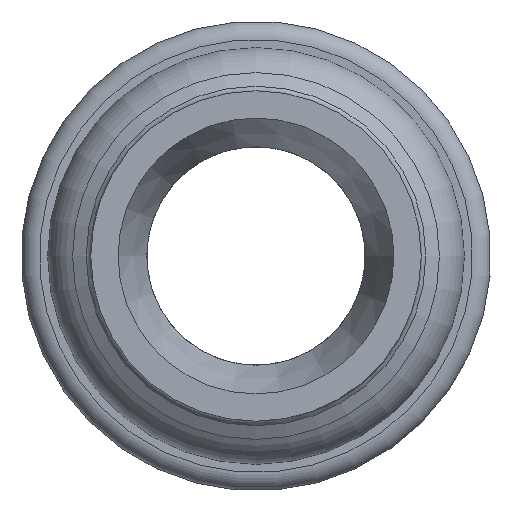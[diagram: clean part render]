
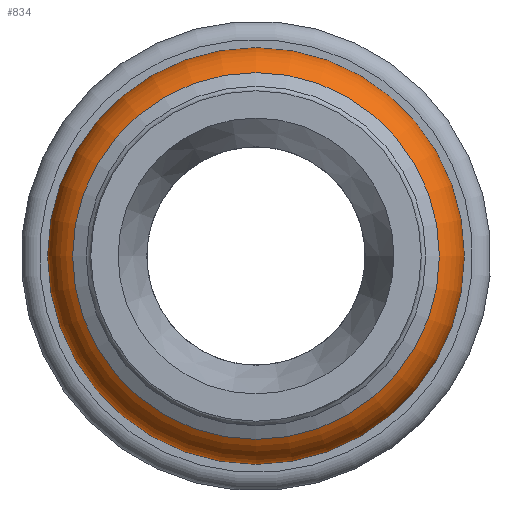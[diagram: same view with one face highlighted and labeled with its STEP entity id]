
A CAD part, left-side view. The second image highlights one B-rep face of the part: STEP entity #834.
In plain terms, the highlighted toroidal (fillet/blend) face has major radius 8.7 mm and minor radius 2.75 mm.
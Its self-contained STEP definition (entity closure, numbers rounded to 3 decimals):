
#512=CARTESIAN_POINT('',(-21.152,9.44,0.0));
#513=VERTEX_POINT('',#512);
#514=CARTESIAN_POINT('',(-21.152,0.,0.0));
#515=DIRECTION('',(1.0,0.0,0.0));
#516=DIRECTION('',(0.0,-1.0,0.0));
#517=AXIS2_PLACEMENT_3D('',#514,#515,#516);
#518=CIRCLE('',#517,9.44);
#519=EDGE_CURVE('',#513,#513,#518,.T.);
#772=CARTESIAN_POINT('',(-26.182,10.075,0.0));
#773=VERTEX_POINT('',#772);
#774=CARTESIAN_POINT('',(-26.182,0.,0.0));
#775=DIRECTION('',(1.0,0.0,0.0));
#776=DIRECTION('',(0.0,1.0,0.0));
#777=AXIS2_PLACEMENT_3D('',#774,#775,#776);
#778=CIRCLE('',#777,10.075);
#779=EDGE_CURVE('',#773,#773,#778,.T.);
#823=CARTESIAN_POINT('',(-23.8,0.,0.0));
#824=DIRECTION('',(1.0,0.,0.0));
#825=DIRECTION('',(0.0,0.0,-1.0));
#826=AXIS2_PLACEMENT_3D('',#823,#824,#825);
#827=TOROIDAL_SURFACE('',#826,8.7,2.75);
#828=ORIENTED_EDGE('',*,*,#779,.T.);
#829=EDGE_LOOP('',(#828));
#830=FACE_OUTER_BOUND('',#829,.T.);
#831=ORIENTED_EDGE('',*,*,#519,.F.);
#832=EDGE_LOOP('',(#831));
#833=FACE_BOUND('',#832,.T.);
#834=ADVANCED_FACE('',(#830,#833),#827,.T.);
